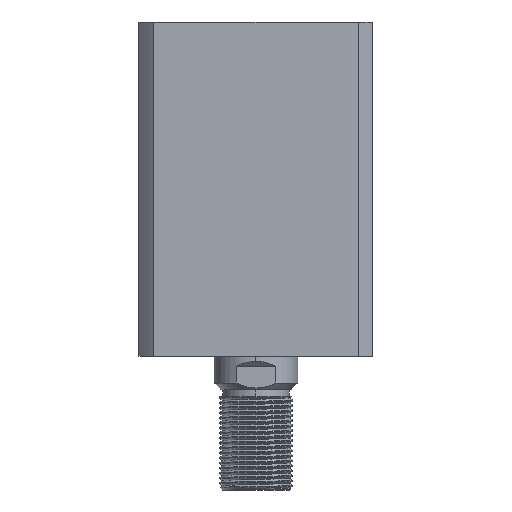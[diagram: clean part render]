
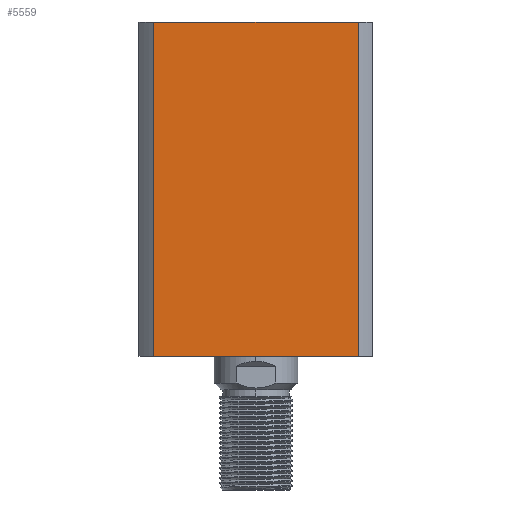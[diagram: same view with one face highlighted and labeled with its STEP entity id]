
A CAD part, front view. The second image highlights one B-rep face of the part: STEP entity #5559.
In plain terms, the highlighted planar face has unit normal (0, -1, 0) as drawn and (1, 0, 0) by its records, which use the part's own axes.
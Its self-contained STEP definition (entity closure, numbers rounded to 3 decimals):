
#53 = VECTOR ( 'NONE', #4943, 1000. ) ;
#698 = VECTOR ( 'NONE', #8918, 1000. ) ;
#869 = CARTESIAN_POINT ( 'NONE',  ( 35., -30.615, 100. ) ) ;
#887 = ORIENTED_EDGE ( 'NONE', *, *, #4167, .F. ) ;
#1378 = DIRECTION ( 'NONE',  ( 0., 0., 1. ) ) ;
#1467 = VERTEX_POINT ( 'NONE', #8652 ) ;
#1816 = CARTESIAN_POINT ( 'NONE',  ( 35., 35., 0. ) ) ;
#1830 = EDGE_CURVE ( 'NONE', #5727, #10741, #10974, .T. ) ;
#1924 = LINE ( 'NONE', #3486, #7492 ) ;
#2415 = CARTESIAN_POINT ( 'NONE',  ( 35., 30.615, 100. ) ) ;
#2592 = VECTOR ( 'NONE', #9769, 1000. ) ;
#2651 = CARTESIAN_POINT ( 'NONE',  ( 35., 30.615, 300. ) ) ;
#3159 = LINE ( 'NONE', #2651, #698 ) ;
#3486 = CARTESIAN_POINT ( 'NONE',  ( 35., -30.615, 300. ) ) ;
#4167 = EDGE_CURVE ( 'NONE', #1467, #5727, #1924, .T. ) ;
#4350 = AXIS2_PLACEMENT_3D ( 'NONE', #9854, #5673, #13019 ) ;
#4943 = DIRECTION ( 'NONE',  ( 0., 1., 0. ) ) ;
#5050 = CARTESIAN_POINT ( 'NONE',  ( 35., 30.615, 0. ) ) ;
#5559 = ADVANCED_FACE ( 'NONE', ( #11435 ), #5625, .F. ) ;
#5625 = PLANE ( 'NONE',  #4350 ) ;
#5673 = DIRECTION ( 'NONE',  ( -1., 0., 0. ) ) ;
#5727 = VERTEX_POINT ( 'NONE', #869 ) ;
#6740 = ORIENTED_EDGE ( 'NONE', *, *, #9395, .F. ) ;
#7492 = VECTOR ( 'NONE', #1378, 1000. ) ;
#7736 = LINE ( 'NONE', #1816, #53 ) ;
#8652 = CARTESIAN_POINT ( 'NONE',  ( 35., -30.615, 0. ) ) ;
#8918 = DIRECTION ( 'NONE',  ( 0., 0., -1. ) ) ;
#9395 = EDGE_CURVE ( 'NONE', #10741, #10360, #3159, .T. ) ;
#9401 = EDGE_LOOP ( 'NONE', ( #6740, #10907, #887, #9449 ) ) ;
#9449 = ORIENTED_EDGE ( 'NONE', *, *, #9530, .T. ) ;
#9530 = EDGE_CURVE ( 'NONE', #1467, #10360, #7736, .T. ) ;
#9769 = DIRECTION ( 'NONE',  ( 0., 1., 0. ) ) ;
#9854 = CARTESIAN_POINT ( 'NONE',  ( 35., 35., 100. ) ) ;
#10360 = VERTEX_POINT ( 'NONE', #5050 ) ;
#10741 = VERTEX_POINT ( 'NONE', #2415 ) ;
#10828 = CARTESIAN_POINT ( 'NONE',  ( 35., 35., 100. ) ) ;
#10907 = ORIENTED_EDGE ( 'NONE', *, *, #1830, .F. ) ;
#10974 = LINE ( 'NONE', #10828, #2592 ) ;
#11435 = FACE_OUTER_BOUND ( 'NONE', #9401, .T. ) ;
#13019 = DIRECTION ( 'NONE',  ( 0., 0., 1. ) ) ;
